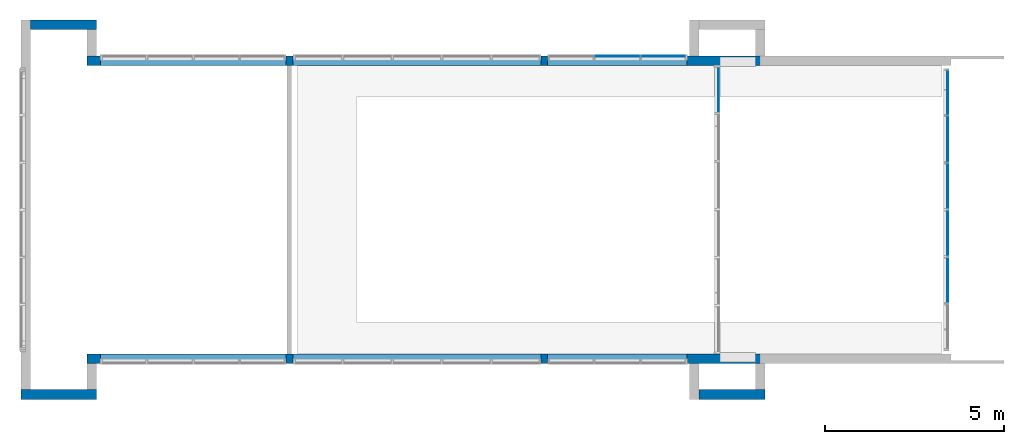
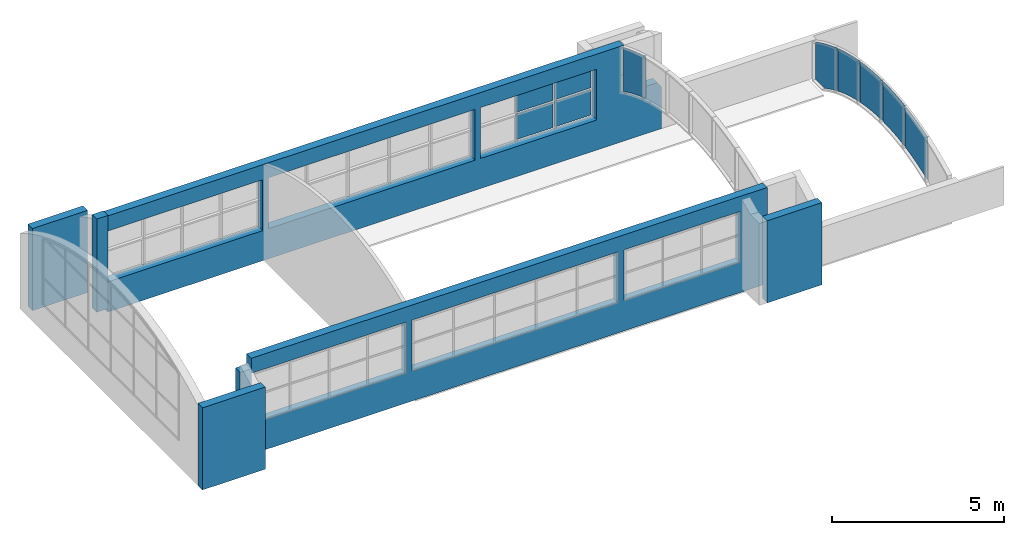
# One storey, part 11 of 14: 14 plates, 7 walls, 8 openings, 4 elements without a shape of their own.
"""IFC2X3 building model written with IfcOpenShell, lengths in metres."""

from ifc_helpers import new_model, entity, si_unit, converted_unit, frame, frame_2d, origin, origin_2d_with_axis, place, context, project, spatial, polyline, circle_curve, parameter, trimmed, segment, composite_curve, rectangle, outline, extrude, clip, halfspace, source, transform, mapped, material, layer, layer_set, layer_usage, type_object, type_shapes, element, aggregate, save


model = new_model("IFC2X3")

# Units and contexts
model_context = context("Model", 3, precision=1e-09, world=origin())
plan_context = context("Plan", 3, precision=1e-09, world=origin())
ifc_project = project(units=[si_unit("LENGTHUNIT", "METRE"), si_unit("AREAUNIT", "SQUARE_METRE"), si_unit("VOLUMEUNIT", "CUBIC_METRE"), converted_unit("PLANEANGLEUNIT", "DEGREE", entity("IfcRatioMeasure", 0.01745329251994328), si_unit("PLANEANGLEUNIT", "RADIAN"), dimensions=[0, 0, 0, 0, 0, 0, 0]), si_unit("TIMEUNIT", "SECOND")], contexts=[model_context, plan_context])

# Site, building, storey
site_placement = place(None, origin())
site = spatial("IfcSite", under=ifc_project, at=site_placement, Name="Default", CompositionType="ELEMENT")
building_placement = place(site_placement, origin())
building = spatial("IfcBuilding", under=site, at=building_placement, CompositionType="ELEMENT")
storey_placement = place(building_placement, frame((0.0, 0.0, 9.25000000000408)))
storey = spatial("IfcBuildingStorey", under=building, at=storey_placement, Name="Roof - Main", CompositionType="ELEMENT", Elevation=9.25000000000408)

# Curtain wall, plates
curtain_wall_1_placement = place(storey_placement, origin())
curtain_wall_1 = element("IfcCurtainWall", 1, at=curtain_wall_1_placement, inside=storey, Name="Curtain Wall:Storefront", ObjectType="Curtain Wall:Storefront")
ifc_material_1 = material(Name="Glass")
plate_type_1 = type_object("IfcPlateType", Name="Glazed", PredefinedType="CURTAIN_PANEL")
shared_shape_1 = source(origin(), model_context, "Body", "SweptSolid", [
    extrude(rectangle(XDim=0.025, YDim=1.221666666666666, at=origin_2d_with_axis()), frame((0.0, 0.03700000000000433, 0.0), z_axis=(0.0, 0.0, 1.0), x_axis=(0.0, 1.0, 0.0)), (0.0, 0.0, 1.0), 0.7381055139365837),
])
type_shapes(plate_type_1, [shared_shape_1])
plate_1_placement = place(storey_placement, frame((-23.12083333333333, 35.93490399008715, 2.078894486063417)))
plate_1 = element("IfcPlate", 2, at=plate_1_placement, type_object=plate_type_1, material=ifc_material_1, Name="System Panel:Glazed:Glazed", ObjectType="Glazed", context=model_context, shape_type="MappedRepresentation", body=[
    mapped(shared_shape_1, transform((0.0, 0.0, 0.0), scale=1.0)),
])
plate_type_2 = type_object("IfcPlateType", Name="Glazed", PredefinedType="CURTAIN_PANEL")
shared_shape_2 = source(origin(), model_context, "Body", "SweptSolid", [
    extrude(rectangle(XDim=0.025, YDim=1.221666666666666, at=origin_2d_with_axis()), frame((0.0, 0.03700000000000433, 0.0), z_axis=(0.0, 0.0, 1.0), x_axis=(0.0, 1.0, 0.0)), (0.0, 0.0, 1.0), 0.9118944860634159),
])
type_shapes(plate_type_2, [shared_shape_2])
plate_2_placement = place(storey_placement, frame((-23.12083333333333, 35.93490399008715, 1.117)))
plate_2 = element("IfcPlate", 3, at=plate_2_placement, type_object=plate_type_2, material=ifc_material_1, Name="System Panel:Glazed:Glazed", ObjectType="Glazed", context=model_context, shape_type="MappedRepresentation", body=[
    mapped(shared_shape_2, transform((0.0, 0.0, 0.0), scale=1.0)),
])

# Curtain wall, plate
curtain_wall_2_placement = place(storey_placement, origin())
curtain_wall_2 = element("IfcCurtainWall", 4, at=curtain_wall_2_placement, inside=storey, Name="Curtain Wall:Storefront", ObjectType="Curtain Wall:Storefront")
plate_type_3 = type_object("IfcPlateType", Name="Glazed", PredefinedType="CURTAIN_PANEL")
shared_shape_3 = source(origin(), model_context, "Body", "SweptSolid", [
    extrude(outline(composite_curve([segment(polyline([(-0.7716900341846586, -0.6308589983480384), (0.6602477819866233, -0.6308589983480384)]), True, "CONTINUOUS"), segment(trimmed(circle_curve(frame_2d((-7.524933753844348, 0.6558589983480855), x_axis=(1.0, 0.0)), 8.285700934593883), [parameter(351.0661638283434)], [parameter(359.8271242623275)], True, "PARAMETER"), True, "CONTINUOUS"), segment(polyline([(0.760729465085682, 0.6308589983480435), (-0.6492872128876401, 0.6308589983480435)]), True, "CONTINUOUS"), segment(trimmed(circle_curve(frame_2d((-7.492248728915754, 0.6579176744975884), x_axis=(0.9811197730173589, -0.1934011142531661)), 6.843015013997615), [parameter(0.2957254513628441)], [parameter(10.92477647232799)], True, "PARAMETER"), False, "CONTINUOUS")], self_intersect=False)), frame((0.0, -0.04950000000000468, 0.7716900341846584), z_axis=(0.0, 1.0, 0.0), x_axis=(0.0, 0.0, 1.0)), (0.0, 0.0, 1.0), 0.025),
])
type_shapes(plate_type_3, [shared_shape_3])
plate_3_placement = place(storey_placement, frame((-15.23000000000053, 31.03939100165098, 0.8025168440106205), z_axis=(0.0, 0.0, 1.0), x_axis=(0.0, 1.0, 0.0)))
plate_3 = element("IfcPlate", 5, at=plate_3_placement, type_object=plate_type_3, material=ifc_material_1, Name="System Panel:Glazed:Glazed", ObjectType="Glazed", context=model_context, shape_type="MappedRepresentation", body=[
    mapped(shared_shape_3, transform((0.0, 0.0, 0.0), scale=1.0)),
])

# Plate
plate_type_4 = type_object("IfcPlateType", Name="Glazed", PredefinedType="CURTAIN_PANEL")
shared_shape_4 = source(origin(), model_context, "Body", "SweptSolid", [
    extrude(rectangle(XDim=0.025, YDim=1.246666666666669, at=origin_2d_with_axis()), frame((0.0, 0.03700000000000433, 0.0), z_axis=(0.0, 0.0, 1.0), x_axis=(0.0, 1.0, 0.0)), (0.0, 0.0, 1.0), 0.7381055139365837),
])
type_shapes(plate_type_4, [shared_shape_4])
plate_4_placement = place(storey_placement, frame((-24.405, 35.93490399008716, 2.078894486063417)))
plate_4 = element("IfcPlate", 6, at=plate_4_placement, type_object=plate_type_4, material=ifc_material_1, Name="System Panel:Glazed:Glazed", ObjectType="Glazed", context=model_context, shape_type="MappedRepresentation", body=[
    mapped(shared_shape_4, transform((0.0, 0.0, 0.0), scale=1.0)),
])

plate_type_5 = type_object("IfcPlateType", Name="Glazed", PredefinedType="CURTAIN_PANEL")
shared_shape_5 = source(origin(), model_context, "Body", "SweptSolid", [
    extrude(outline(composite_curve([segment(polyline([(-0.9253458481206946, -0.6308589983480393), (0.5800508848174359, -0.6308589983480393)]), True, "CONTINUOUS"), segment(trimmed(circle_curve(frame_2d((-7.28766608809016, 1.967576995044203), x_axis=(0.9875410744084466, -0.1573614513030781)), 8.285700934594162), [parameter(350.7771681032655)], [parameter(359.7697748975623)], True, "PARAMETER"), True, "CONTINUOUS"), segment(polyline([(0.8894987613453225, 0.6308589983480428), (-0.5442037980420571, 0.6308589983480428)]), True, "CONTINUOUS"), segment(trimmed(circle_curve(frame_2d((-7.25498106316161, 1.969635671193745), x_axis=(0.9222897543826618, -0.3864991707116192)), 6.843015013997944), [parameter(0.4018111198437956)], [parameter(11.45465048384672)], True, "PARAMETER"), False, "CONTINUOUS")], self_intersect=False)), frame((0.0, -0.04950000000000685, 0.9253458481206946), z_axis=(0.0, 1.0, 0.0), x_axis=(0.0, 0.0, 1.0)), (0.0, 0.0, 1.0), 0.02499999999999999),
])
type_shapes(plate_type_5, [shared_shape_5])
plate_5_placement = place(storey_placement, frame((-15.23000000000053, 29.7276730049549, 0.4115933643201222), z_axis=(0.0, 0.0, 1.0), x_axis=(0.0, 1.0, 0.0)))
plate_5 = element("IfcPlate", 7, at=plate_5_placement, type_object=plate_type_5, material=ifc_material_1, Name="System Panel:Glazed:Glazed", ObjectType="Glazed", context=model_context, shape_type="MappedRepresentation", body=[
    mapped(shared_shape_5, transform((0.0, 0.0, 0.0), scale=1.0)),
])

# Curtain wall, plate
curtain_wall_3_placement = place(storey_placement, origin())
curtain_wall_3 = element("IfcCurtainWall", 8, at=curtain_wall_3_placement, inside=storey, Name="Curtain Wall:Storefront", ObjectType="Curtain Wall:Storefront")
plate_type_6 = type_object("IfcPlateType", Name="Glazed", PredefinedType="CURTAIN_PANEL")
shared_shape_6 = source(origin(), model_context, "Body", "SweptSolid", [
    extrude(outline(composite_curve([segment(trimmed(circle_curve(frame_2d((-7.492449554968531, 0.6538003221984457), x_axis=(0.9999999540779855, 0.0003030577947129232)), 6.843015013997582), [parameter(349.1621254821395)], [parameter(359.7905506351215)], True, "PARAMETER"), False, "CONTINUOUS"), segment(polyline([(-0.7711025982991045, -0.6308589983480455), (0.6600469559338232, -0.6308589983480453)]), True, "CONTINUOUS"), segment(trimmed(circle_curve(frame_2d((-7.525134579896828, 0.6558589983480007), x_axis=(0.9875410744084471, -0.1573614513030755)), 8.285700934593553), [parameter(0.1199422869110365)], [parameter(8.880902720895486)], True, "PARAMETER"), True, "CONTINUOUS"), segment(polyline([(0.7605286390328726, 0.6308589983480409), (-0.6494729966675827, 0.6308589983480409)]), True, "CONTINUOUS")], self_intersect=False)), frame((0.0, 0.02450000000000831, 0.7711025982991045), z_axis=(0.0, -1.0, 0.0), x_axis=(0.0, 0.0, 1.0)), (0.0, 0.0, -1.0), 0.025),
])
type_shapes(plate_type_6, [shared_shape_6])
plate_6_placement = place(storey_placement, frame((-15.23000000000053, 31.03939100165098, 0.8033051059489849), z_axis=(0.0, 0.0, 1.0), x_axis=(0.0, -1.0, 0.0)))
plate_6 = element("IfcPlate", 9, at=plate_6_placement, type_object=plate_type_6, material=ifc_material_1, Name="System Panel:Glazed:Glazed", ObjectType="Glazed", context=model_context, shape_type="MappedRepresentation", body=[
    mapped(shared_shape_6, transform((0.0, 0.0, 0.0), scale=1.0)),
])

# Plate
plate_type_7 = type_object("IfcPlateType", Name="Glazed", PredefinedType="CURTAIN_PANEL")
shared_shape_7 = source(origin(), model_context, "Body", "SweptSolid", [
    extrude(rectangle(XDim=0.025, YDim=1.246666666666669, at=origin_2d_with_axis()), frame((0.0, 0.03700000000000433, 0.0), z_axis=(0.0, 0.0, 1.0), x_axis=(0.0, 1.0, 0.0)), (0.0, 0.0, 1.0), 0.9118944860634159),
])
type_shapes(plate_type_7, [shared_shape_7])
plate_7_placement = place(storey_placement, frame((-24.405, 35.93490399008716, 1.117)))
plate_7 = element("IfcPlate", 10, at=plate_7_placement, type_object=plate_type_7, material=ifc_material_1, Name="System Panel:Glazed:Glazed", ObjectType="Glazed", context=model_context, shape_type="MappedRepresentation", body=[
    mapped(shared_shape_7, transform((0.0, 0.0, 0.0), scale=1.0)),
])

aggregate(curtain_wall_1, [plate_4, plate_7, plate_2, plate_1])

plate_type_8 = type_object("IfcPlateType", Name="Glazed", PredefinedType="CURTAIN_PANEL")
shared_shape_8 = source(origin(), model_context, "Body", "SweptSolid", [
    extrude(outline(composite_curve([segment(trimmed(circle_curve(frame_2d((-7.492449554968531, 0.6538003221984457), x_axis=(0.9999999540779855, 0.0003030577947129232)), 6.843015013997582), [parameter(349.1621254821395)], [parameter(359.7905506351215)], True, "PARAMETER"), False, "CONTINUOUS"), segment(polyline([(-0.7711025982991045, -0.6308589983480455), (0.6600469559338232, -0.6308589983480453)]), True, "CONTINUOUS"), segment(trimmed(circle_curve(frame_2d((-7.525134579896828, 0.6558589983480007), x_axis=(0.9875410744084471, -0.1573614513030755)), 8.285700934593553), [parameter(0.1199422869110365)], [parameter(8.880902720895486)], True, "PARAMETER"), True, "CONTINUOUS"), segment(polyline([(0.7605286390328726, 0.6308589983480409), (-0.6494729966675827, 0.6308589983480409)]), True, "CONTINUOUS")], self_intersect=False)), frame((0.0, -0.04950000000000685, 0.7711025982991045), z_axis=(0.0, -1.0, 0.0), x_axis=(0.0, 0.0, 1.0)), (0.0, 0.0, -1.0), 0.025),
])
type_shapes(plate_type_8, [shared_shape_8])
plate_8_placement = place(storey_placement, frame((-15.23000000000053, 32.35110899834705, 0.8033051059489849), z_axis=(0.0, 0.0, 1.0), x_axis=(0.0, 1.0, 0.0)))
plate_8 = element("IfcPlate", 11, at=plate_8_placement, type_object=plate_type_8, material=ifc_material_1, Name="System Panel:Glazed:Glazed", ObjectType="Glazed", context=model_context, shape_type="MappedRepresentation", body=[
    mapped(shared_shape_8, transform((0.0, 0.0, 0.0), scale=1.0)),
])

plate_type_9 = type_object("IfcPlateType", Name="Glazed", PredefinedType="CURTAIN_PANEL")
shared_shape_9 = source(origin(), model_context, "Body", "SweptSolid", [
    extrude(outline(composite_curve([segment(polyline([(-0.7716900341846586, -0.6308589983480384), (0.6602477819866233, -0.6308589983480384)]), True, "CONTINUOUS"), segment(trimmed(circle_curve(frame_2d((-7.524933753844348, 0.6558589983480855), x_axis=(1.0, 0.0)), 8.285700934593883), [parameter(351.0661638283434)], [parameter(359.8271242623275)], True, "PARAMETER"), True, "CONTINUOUS"), segment(polyline([(0.760729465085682, 0.6308589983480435), (-0.6492872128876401, 0.6308589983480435)]), True, "CONTINUOUS"), segment(trimmed(circle_curve(frame_2d((-7.492248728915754, 0.6579176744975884), x_axis=(0.9811197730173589, -0.1934011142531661)), 6.843015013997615), [parameter(0.2957254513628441)], [parameter(10.92477647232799)], True, "PARAMETER"), False, "CONTINUOUS")], self_intersect=False)), frame((0.0, 0.02450000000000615, 0.7716900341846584), z_axis=(0.0, 1.0, 0.0), x_axis=(0.0, 0.0, 1.0)), (0.0, 0.0, 1.0), 0.025),
])
type_shapes(plate_type_9, [shared_shape_9])
plate_9_placement = place(storey_placement, frame((-15.23000000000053, 32.35110899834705, 0.8025168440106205), z_axis=(0.0, 0.0, 1.0), x_axis=(0.0, -1.0, 0.0)))
plate_9 = element("IfcPlate", 12, at=plate_9_placement, type_object=plate_type_9, material=ifc_material_1, Name="System Panel:Glazed:Glazed", ObjectType="Glazed", context=model_context, shape_type="MappedRepresentation", body=[
    mapped(shared_shape_9, transform((0.0, 0.0, 0.0), scale=1.0)),
])

plate_type_10 = type_object("IfcPlateType", Name="Glazed", PredefinedType="CURTAIN_PANEL")
shared_shape_10 = source(origin(), model_context, "Body", "SweptSolid", [
    extrude(outline(composite_curve([segment(polyline([(-0.6219994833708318, -0.3324107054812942), (-0.4155229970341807, -0.8260281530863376)]), True, "CONTINUOUS"), segment(polyline([(-0.4155229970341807, -0.8260281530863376), (0.8000525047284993, -0.3175620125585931)]), True, "CONTINUOUS"), segment(trimmed(circle_curve(frame_2d((-7.450708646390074, 0.4425566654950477), x_axis=(0.995445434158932, -0.0953330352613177)), 8.285700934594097), [parameter(0.206852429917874)], [parameter(9.528566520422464)], True, "PARAMETER"), True, "CONTINUOUS"), segment(polyline([(0.8142186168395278, 1.028916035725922), (-0.5767486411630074, 0.4470848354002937)]), True, "CONTINUOUS"), segment(trimmed(circle_curve(frame_2d((-7.419760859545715, 0.453270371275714), x_axis=(1.0, 0.0)), 6.843015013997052), [parameter(353.407042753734)], [parameter(359.9482092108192)], True, "PARAMETER"), False, "CONTINUOUS")], self_intersect=False)), frame((0.01665951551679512, -0.0494999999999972, 0.7020965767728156), z_axis=(0.0, -1.0, 0.0), x_axis=(0.3858930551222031, 0.0, 0.9225435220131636)), (0.0, 0.0, -1.0), 0.02499999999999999),
])
type_shapes(plate_type_10, [shared_shape_10])
plate_10_placement = place(storey_placement, frame((-15.23000000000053, 34.96204499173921, 0.04999999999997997), z_axis=(0.0, 0.0, 1.0), x_axis=(0.0, 1.0, 0.0)))
plate_10 = element("IfcPlate", 13, at=plate_10_placement, type_object=plate_type_10, material=ifc_material_1, Name="System Panel:Glazed:Glazed", ObjectType="Glazed", context=model_context, shape_type="MappedRepresentation", body=[
    mapped(shared_shape_10, transform((0.0, 0.0, 0.0), scale=1.0)),
])

plate_type_11 = type_object("IfcPlateType", Name="Glazed", PredefinedType="CURTAIN_PANEL")
shared_shape_11 = source(origin(), model_context, "Body", "SweptSolid", [
    extrude(outline(composite_curve([segment(trimmed(circle_curve(frame_2d((-7.255608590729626, 1.965518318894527), x_axis=(0.9812390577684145, -0.1927949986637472)), 6.843015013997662), [parameter(348.8181764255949)], [parameter(359.8689018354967)], True, "PARAMETER"), False, "CONTINUOUS"), segment(polyline([(-0.9242833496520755, -0.6308589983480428), (0.5794233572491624, -0.6308589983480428)]), True, "CONTINUOUS"), segment(trimmed(circle_curve(frame_2d((-7.288293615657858, 1.967576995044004), x_axis=(0.9491835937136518, -0.3147229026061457)), 8.285700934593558), [parameter(0.06747613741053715)], [parameter(9.060082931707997)], True, "PARAMETER"), True, "CONTINUOUS"), segment(polyline([(0.88887123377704, 0.6308589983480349), (-0.5440112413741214, 0.6308589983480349)]), True, "CONTINUOUS")], self_intersect=False)), frame((0.0, -0.04950000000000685, 0.9242833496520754), z_axis=(0.0, -1.0, 0.0), x_axis=(0.0, 0.0, 1.0)), (0.0, 0.0, -1.0), 0.02499999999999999),
])
type_shapes(plate_type_11, [shared_shape_11])
plate_11_placement = place(storey_placement, frame((-15.23000000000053, 33.66282699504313, 0.4132833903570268), z_axis=(0.0, 0.0, 1.0), x_axis=(0.0, 1.0, 0.0)))
plate_11 = element("IfcPlate", 14, at=plate_11_placement, type_object=plate_type_11, material=ifc_material_1, Name="System Panel:Glazed:Glazed", ObjectType="Glazed", context=model_context, shape_type="MappedRepresentation", body=[
    mapped(shared_shape_11, transform((0.0, 0.0, 0.0), scale=1.0)),
])

aggregate(curtain_wall_2, [plate_11, plate_8, plate_10, plate_3, plate_5])

# Curtain wall, plate
curtain_wall_4_placement = place(storey_placement, origin())
curtain_wall_4 = element("IfcCurtainWall", 15, at=curtain_wall_4_placement, inside=storey, Name="Curtain Wall:Storefront", ObjectType="Curtain Wall:Storefront")
plate_type_12 = type_object("IfcPlateType", Name="Glazed", PredefinedType="CURTAIN_PANEL")
shared_shape_12 = source(origin(), model_context, "Body", "SweptSolid", [
    extrude(outline(composite_curve([segment(polyline([(-0.8780929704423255, -0.6328733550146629), (-0.2852737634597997, -0.6328733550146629)]), True, "CONTINUOUS"), segment(polyline([(-0.2852737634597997, -0.6328733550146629), (0.6784207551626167, -0.6328733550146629)]), True, "CONTINUOUS"), segment(trimmed(circle_curve(frame_2d((-8.641630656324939, 3.339530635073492), x_axis=(0.9646893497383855, -0.2633903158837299)), 10.13130553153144), [parameter(352.1865936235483)], [parameter(359.7761179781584)], True, "PARAMETER"), True, "CONTINUOUS"), segment(polyline([(1.121430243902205, 0.6328733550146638), (-0.2852737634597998, 0.6328733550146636)]), True, "CONTINUOUS"), segment(polyline([(-0.2852737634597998, 0.6328733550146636), (-0.3512105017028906, 0.6328733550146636)]), True, "CONTINUOUS"), segment(trimmed(circle_curve(frame_2d((-8.637313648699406, 3.339530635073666), x_axis=(0.88577888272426, -0.464107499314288)), 8.716966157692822), [parameter(0.5418844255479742)], [parameter(9.562839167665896)], True, "PARAMETER"), False, "CONTINUOUS")], self_intersect=False)), frame((0.0, 0.02450000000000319, 0.8780929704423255), z_axis=(0.0, 1.0, 0.0), x_axis=(0.0, 0.0, 1.0)), (0.0, 0.0, 1.0), 0.025),
])
type_shapes(plate_type_12, [shared_shape_12])
plate_12_placement = place(storey_placement, frame((-21.61957995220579, 35.03461677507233, 1.807180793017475), z_axis=(0.0, 0.0, 1.0), x_axis=(0.0, -1.0, 0.0)))
plate_12 = element("IfcPlate", 16, at=plate_12_placement, type_object=plate_type_12, material=ifc_material_1, Name="System Panel:Glazed:Glazed", ObjectType="Glazed", context=model_context, shape_type="MappedRepresentation", body=[
    mapped(shared_shape_12, transform((0.0, 0.0, 0.0), scale=1.0)),
])
aggregate(curtain_wall_4, [plate_12])

# Plate
plate_type_13 = type_object("IfcPlateType", Name="Glazed", PredefinedType="CURTAIN_PANEL")
shared_shape_13 = source(origin(), model_context, "Body", "SweptSolid", [
    extrude(outline(composite_curve([segment(polyline([(-0.9253458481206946, -0.6308589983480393), (0.5800508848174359, -0.6308589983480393)]), True, "CONTINUOUS"), segment(trimmed(circle_curve(frame_2d((-7.28766608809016, 1.967576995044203), x_axis=(0.9875410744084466, -0.1573614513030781)), 8.285700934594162), [parameter(350.7771681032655)], [parameter(359.7697748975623)], True, "PARAMETER"), True, "CONTINUOUS"), segment(polyline([(0.8894987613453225, 0.6308589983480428), (-0.5442037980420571, 0.6308589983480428)]), True, "CONTINUOUS"), segment(trimmed(circle_curve(frame_2d((-7.25498106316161, 1.969635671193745), x_axis=(0.9222897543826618, -0.3864991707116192)), 6.843015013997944), [parameter(0.4018111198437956)], [parameter(11.45465048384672)], True, "PARAMETER"), False, "CONTINUOUS")], self_intersect=False)), frame((0.0, 0.02450000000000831, 0.9253458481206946), z_axis=(0.0, 1.0, 0.0), x_axis=(0.0, 0.0, 1.0)), (0.0, 0.0, 1.0), 0.02499999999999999),
])
type_shapes(plate_type_13, [shared_shape_13])
plate_13_placement = place(storey_placement, frame((-15.23000000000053, 33.66282699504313, 0.4115933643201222), z_axis=(0.0, 0.0, 1.0), x_axis=(0.0, -1.0, 0.0)))
plate_13 = element("IfcPlate", 17, at=plate_13_placement, type_object=plate_type_13, material=ifc_material_1, Name="System Panel:Glazed:Glazed", ObjectType="Glazed", context=model_context, shape_type="MappedRepresentation", body=[
    mapped(shared_shape_13, transform((0.0, 0.0, 0.0), scale=1.0)),
])

plate_type_14 = type_object("IfcPlateType", Name="Glazed", PredefinedType="CURTAIN_PANEL")
shared_shape_14 = source(origin(), model_context, "Body", "SweptSolid", [
    extrude(outline(composite_curve([segment(polyline([(-0.7017509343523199, -0.6025229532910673), (0.615883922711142, -0.6025229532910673)]), True, "CONTINUOUS"), segment(trimmed(circle_curve(frame_2d((-6.702477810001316, 3.282631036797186), x_axis=(0.9491835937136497, -0.3147229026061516)), 8.28570093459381), [parameter(350.3812571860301)], [parameter(359.702971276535)], True, "PARAMETER"), True, "CONTINUOUS"), segment(polyline([(1.148549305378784, 0.6341950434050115), (-0.3609313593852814, 0.6341950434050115)]), True, "CONTINUOUS"), segment(trimmed(circle_curve(frame_2d((-6.669792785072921, 3.284689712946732), x_axis=(0.8711951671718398, -0.4909368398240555)), 6.843015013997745), [parameter(0.1100252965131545)], [parameter(6.613803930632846)], True, "PARAMETER"), False, "CONTINUOUS"), segment(polyline([(-0.7017509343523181, -0.06334418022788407), (-0.7017509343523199, -0.6025229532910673)]), True, "CONTINUOUS")], self_intersect=False)), frame((-0.0158360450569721, 0.02450000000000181, 0.7017509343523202), z_axis=(0.0, 1.0, 0.0), x_axis=(0.0, 0.0, 1.0)), (0.0, 0.0, 1.0), 0.025),
])
type_shapes(plate_type_14, [shared_shape_14])
plate_14_placement = place(storey_placement, frame((-15.23000000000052, 34.96204499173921, 0.0499999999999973), z_axis=(0.0, 0.0, 1.0), x_axis=(0.0, -1.0, 0.0)))
plate_14 = element("IfcPlate", 18, at=plate_14_placement, type_object=plate_type_14, material=ifc_material_1, Name="System Panel:Glazed:Glazed", ObjectType="Glazed", context=model_context, shape_type="MappedRepresentation", body=[
    mapped(shared_shape_14, transform((0.0, 0.0, 0.0), scale=1.0)),
])

aggregate(curtain_wall_3, [plate_6, plate_9, plate_14, plate_13])

# Wall, openings
ifc_material_2 = material(Name="Insulation - Insulated Panel")
ifc_layer_1 = layer(ifc_material_2, 0.042)
ifc_material_3 = material(Name="Metal - Firring")
ifc_layer_2 = layer(ifc_material_3, 0.038)
ifc_material_4 = material(Name="Wood - Sheathing - plywood")
ifc_layer_3 = layer(ifc_material_4, 0.019)
ifc_material_5 = material(Name="Metal - Stud Layer")
ifc_layer_4 = layer(ifc_material_5, 0.152)
ifc_material_6 = material(Name="Plasterboard")
ifc_layer_5 = layer(ifc_material_6, 0.016)
ifc_layer_set = layer_set([ifc_layer_1, ifc_layer_2, ifc_layer_3, ifc_layer_4, ifc_layer_5], Name="Basic Wall:Exterior - Insul Panel on Mtl. Stud")
ifc_layer_usage_1 = layer_usage(ifc_layer_set, "AXIS2", "NEGATIVE", 0.1335)
wall_1_placement = place(storey_placement, frame((-38.82600000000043, 35.85099013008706, 0.0)))
wall_1 = element("IfcWallStandardCase", 19, at=wall_1_placement, inside=storey, material=ifc_layer_usage_1, Name="Basic Wall:Exterior - Insul Panel on Mtl. Stud", ObjectType="Basic Wall:Exterior - Insul Panel on Mtl. Stud", context=model_context, shape_type="Clipping", body=[
    clip(extrude(rectangle(XDim=18.53599999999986, YDim=0.267, at=frame_2d((9.267999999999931, 0.0), x_axis=(-1.0, 0.0))), origin(), (0.0, 0.0, 1.0), 3.399999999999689), halfspace(frame((18.40249999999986, 0.0, 1.678139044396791), z_axis=(0.838027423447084, 0.0, 0.5456281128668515), x_axis=(0.0, 1.0, 0.0)), False)),
])
opening_1_placement = place(wall_1_placement, origin())
element("IfcOpeningElement", 20, at=opening_1_placement, cuts=wall_1, ObjectType="Opening", context=model_context, shape_type="SweptSolid", body=[
    extrude(rectangle(XDim=1.8, YDim=3.889999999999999, at=origin_2d_with_axis()), frame((14.42100000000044, -0.2858999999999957, 1.966999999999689), z_axis=(0.0, 1.0, 0.0), x_axis=(0.0, 0.0, 1.0)), (0.0, 0.0, 1.0), 0.5718),
])
opening_2_placement = place(wall_1_placement, frame((17.65511336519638, 0.1334999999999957, 2.252092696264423)))
element("IfcOpeningElement", 21, at=opening_2_placement, cuts=wall_1, Name="Basic Wall:Exterior - Insul Panel on Mtl. Stud:2", ObjectType="Opening", context=model_context, shape_type="SweptSolid", body=[
    extrude(outline(polyline([(-0.888784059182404, -0.3131652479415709), (1.165875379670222, -0.313165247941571), (-0.2770913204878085, 0.6263304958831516), (-0.888784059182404, -0.3131652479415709)])), frame((0.0, 0.0, 0.0), z_axis=(0.0, -1.0, 0.0), x_axis=(-0.5456281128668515, 0.0, 0.838027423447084)), (0.0, 0.0, 1.0), 0.267),
])
opening_3_placement = place(wall_1_placement, origin())
element("IfcOpeningElement", 22, at=opening_3_placement, cuts=wall_1, ObjectType="Opening", context=model_context, shape_type="SweptSolid", body=[
    extrude(rectangle(XDim=1.8, YDim=6.905000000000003, at=origin_2d_with_axis()), frame((8.834499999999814, -0.2859, 1.966999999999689), z_axis=(0.0, 1.0, 0.0), x_axis=(0.0, 0.0, 1.0)), (0.0, 0.0, 1.0), 0.5718),
])
opening_4_placement = place(wall_1_placement, origin())
element("IfcOpeningElement", 23, at=opening_4_placement, cuts=wall_1, ObjectType="Opening", context=model_context, shape_type="SweptSolid", body=[
    extrude(rectangle(XDim=1.8, YDim=5.180000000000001, at=origin_2d_with_axis()), frame((2.589999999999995, -0.2859, 1.966999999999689), z_axis=(0.0, 1.0, 0.0), x_axis=(0.0, 0.0, 1.0)), (0.0, 0.0, 1.0), 0.5718),
])

ifc_layer_usage_2 = layer_usage(ifc_layer_set, "AXIS2", "POSITIVE", -0.1335)
wall_2_placement = place(storey_placement, frame((-38.82600000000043, 27.53950986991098, 0.0)))
wall_2 = element("IfcWallStandardCase", 24, at=wall_2_placement, inside=storey, material=ifc_layer_usage_2, Name="Basic Wall:Exterior - Insul Panel on Mtl. Stud", ObjectType="Basic Wall:Exterior - Insul Panel on Mtl. Stud", context=model_context, shape_type="Clipping", body=[
    clip(extrude(rectangle(XDim=18.53599999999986, YDim=0.267, at=frame_2d((9.267999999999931, 0.0), x_axis=(-1.0, 0.0))), origin(), (0.0, 0.0, 1.0), 3.399999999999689), halfspace(frame((18.40249999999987, 0.0, 1.678139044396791), z_axis=(0.838027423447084, 0.0, 0.5456281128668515), x_axis=(0.0, 1.0, 0.0)), False)),
])
opening_5_placement = place(wall_2_placement, origin())
element("IfcOpeningElement", 25, at=opening_5_placement, cuts=wall_2, ObjectType="Opening", context=model_context, shape_type="SweptSolid", body=[
    extrude(rectangle(XDim=1.8, YDim=5.180000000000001, at=origin_2d_with_axis()), frame((2.589999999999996, -0.2859, 1.966999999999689), z_axis=(0.0, 1.0, 0.0), x_axis=(0.0, 0.0, 1.0)), (0.0, 0.0, 1.0), 0.5718),
])
opening_6_placement = place(wall_2_placement, origin())
element("IfcOpeningElement", 26, at=opening_6_placement, cuts=wall_2, ObjectType="Opening", context=model_context, shape_type="SweptSolid", body=[
    extrude(rectangle(XDim=1.8, YDim=3.889999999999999, at=origin_2d_with_axis()), frame((14.42100000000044, -0.2859000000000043, 1.966999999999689), z_axis=(0.0, 1.0, 0.0), x_axis=(0.0, 0.0, 1.0)), (0.0, 0.0, 1.0), 0.5718),
])
opening_7_placement = place(wall_2_placement, origin())
element("IfcOpeningElement", 27, at=opening_7_placement, cuts=wall_2, ObjectType="Opening", context=model_context, shape_type="SweptSolid", body=[
    extrude(rectangle(XDim=1.8, YDim=6.905000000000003, at=origin_2d_with_axis()), frame((8.834499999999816, -0.2859, 1.966999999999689), z_axis=(0.0, 1.0, 0.0), x_axis=(0.0, 0.0, 1.0)), (0.0, 0.0, 1.0), 0.5718),
])
opening_8_placement = place(wall_2_placement, frame((17.65511336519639, 0.1335, 2.252092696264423)))
element("IfcOpeningElement", 28, at=opening_8_placement, cuts=wall_2, Name="Basic Wall:Exterior - Insul Panel on Mtl. Stud:2", ObjectType="Opening", context=model_context, shape_type="SweptSolid", body=[
    extrude(outline(polyline([(-0.888784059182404, -0.3131652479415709), (1.165875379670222, -0.313165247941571), (-0.2770913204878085, 0.6263304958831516), (-0.888784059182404, -0.3131652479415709)])), frame((0.0, 0.0, 0.0), z_axis=(0.0, -1.0, 0.0), x_axis=(-0.5456281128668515, 0.0, 0.838027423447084)), (0.0, 0.0, 1.0), 0.267),
])

# Walls
wall_3_placement = place(storey_placement, frame((-39.20095394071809, 27.53900986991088, 0.1199999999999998)))
element("IfcWallStandardCase", 29, at=wall_3_placement, inside=storey, material=ifc_layer_usage_2, Name="Basic Wall:Exterior - Insul Panel on Mtl. Stud", ObjectType="Basic Wall:Exterior - Insul Panel on Mtl. Stud", context=model_context, shape_type="SweptSolid", body=[
    extrude(rectangle(XDim=0.3749539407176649, YDim=0.267, at=frame_2d((0.1874769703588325, 0.0), x_axis=(-1.0, 0.0))), origin(), (0.0, 0.0, 1.0), 2.908195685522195),
])
wall_4_placement = place(storey_placement, frame((-39.20095394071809, 35.85099013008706, 0.1199999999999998)))
element("IfcWallStandardCase", 30, at=wall_4_placement, inside=storey, material=ifc_layer_usage_1, Name="Basic Wall:Exterior - Insul Panel on Mtl. Stud", ObjectType="Basic Wall:Exterior - Insul Panel on Mtl. Stud", context=model_context, shape_type="SweptSolid", body=[
    extrude(rectangle(XDim=0.3749539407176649, YDim=0.267, at=frame_2d((0.1874769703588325, 0.0), x_axis=(-1.0, 0.0))), origin(), (0.0, 0.0, 1.0), 3.3),
])
wall_5_placement = place(storey_placement, frame((-41.04000000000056, 26.53900986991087, 0.1199999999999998)))
element("IfcWallStandardCase", 31, at=wall_5_placement, inside=storey, material=ifc_layer_usage_2, Name="Basic Wall:Exterior - Insul Panel on Mtl. Stud", ObjectType="Basic Wall:Exterior - Insul Panel on Mtl. Stud", context=model_context, shape_type="SweptSolid", body=[
    extrude(rectangle(XDim=2.106046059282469, YDim=0.267, at=frame_2d((1.053023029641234, 0.0), x_axis=(-1.0, 0.0))), origin(), (0.0, 0.0, 1.0), 2.908195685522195),
])
wall_6_placement = place(storey_placement, frame((-40.77300000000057, 36.85099013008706, 0.1199999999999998)))
element("IfcWallStandardCase", 32, at=wall_6_placement, inside=storey, material=ifc_layer_usage_1, Name="Basic Wall:Exterior - Insul Panel on Mtl. Stud", ObjectType="Basic Wall:Exterior - Insul Panel on Mtl. Stud", context=model_context, shape_type="SweptSolid", body=[
    extrude(rectangle(XDim=1.839046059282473, YDim=0.2669999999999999, at=frame_2d((0.9195230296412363, 0.0), x_axis=(-1.0, 0.0))), origin(), (0.0, 0.0, 1.0), 2.908195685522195),
])
wall_7_placement = place(storey_placement, frame((-22.12904605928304, 26.53950986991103, 0.1199999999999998)))
element("IfcWallStandardCase", 33, at=wall_7_placement, inside=storey, material=ifc_layer_usage_2, Name="Basic Wall:Exterior - Insul Panel on Mtl. Stud", ObjectType="Basic Wall:Exterior - Insul Panel on Mtl. Stud", context=model_context, shape_type="SweptSolid", body=[
    extrude(rectangle(XDim=1.839046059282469, YDim=0.2669999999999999, at=frame_2d((0.9195230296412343, 0.0), x_axis=(-1.0, 0.0))), origin(), (0.0, 0.0, 1.0), 2.908195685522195),
])

save(model, "model.ifc")
